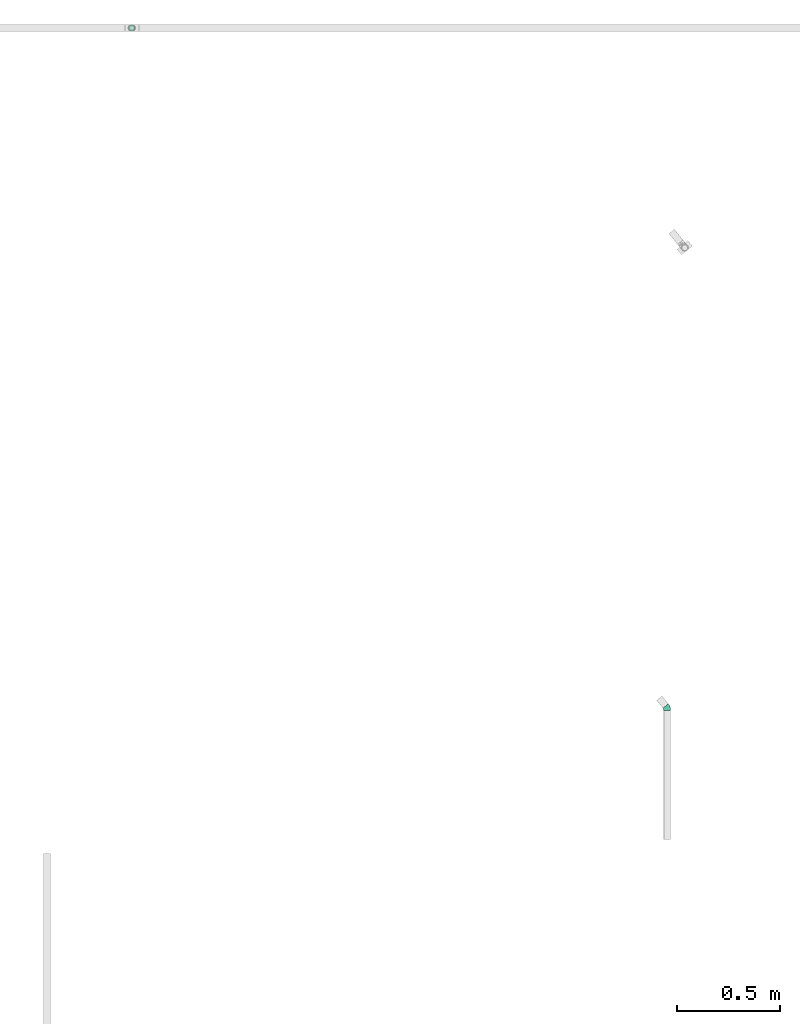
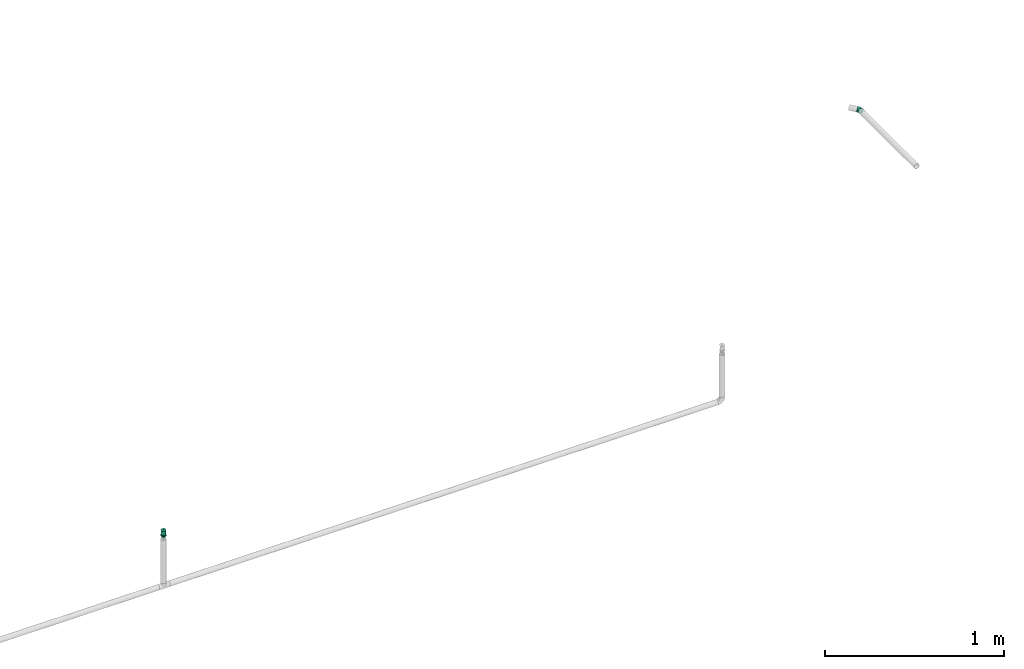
# One storey, part 52 of 63: 1 flow fitting, 1 flow terminal.
"""IFC2X3 building model written with IfcOpenShell, lengths in millimetres."""

from ifc_helpers import new_model, entity, si_unit, converted_unit, derived_unit, direction, frame, origin_with_axes, place, context, subcontext, project, spatial, open_shell, surface_model, source, transform, mapped, type_object, element, save


model = new_model("IFC2X3")

# Units and contexts
model_context = context("Model", 3, precision=0.01, world=frame((0.0, 4.29681676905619e-09, 0.0)), true_north=direction((4.01073788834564e-13, 1.0)))
plan_context = context("Plan", 3, precision=0.01, world=frame((0.0, 4.29681676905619e-09, 0.0)), true_north=direction((4.01073788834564e-13, 1.0)))
body_context = subcontext(model_context, "Body", "Model", "MODEL_VIEW")
ifc_project = project(units=[converted_unit("PLANEANGLEUNIT", "DEGREE", entity("IfcPositiveLengthMeasure", 0.0174532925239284), si_unit("PLANEANGLEUNIT", "RADIAN"), dimensions=[0, 0, 0, 0, 0, 0, 0]), si_unit("AREAUNIT", "SQUARE_METRE"), si_unit("LENGTHUNIT", "METRE", prefix="MILLI"), si_unit("MASSUNIT", "GRAM", prefix="KILO"), si_unit("POWERUNIT", "WATT"), si_unit("PRESSUREUNIT", "PASCAL", prefix="KILO"), si_unit("FORCEUNIT", "NEWTON", prefix="KILO"), si_unit("ELECTRICVOLTAGEUNIT", "VOLT"), si_unit("ELECTRICCURRENTUNIT", "AMPERE"), si_unit("THERMODYNAMICTEMPERATUREUNIT", "DEGREE_CELSIUS"), si_unit("TIMEUNIT", "SECOND"), si_unit("VOLUMEUNIT", "CUBIC_METRE"), derived_unit("LINEARVELOCITYUNIT", [(si_unit("LENGTHUNIT", "METRE"), 1), (si_unit("TIMEUNIT", "SECOND"), -1)]), derived_unit("VOLUMETRICFLOWRATEUNIT", [(si_unit("VOLUMEUNIT", "CUBIC_METRE"), 1), (si_unit("TIMEUNIT", "SECOND"), -1)]), derived_unit("THERMALTRANSMITTANCEUNIT", [(si_unit("POWERUNIT", "WATT"), 1), (si_unit("THERMODYNAMICTEMPERATUREUNIT", "KELVIN"), -1), (si_unit("AREAUNIT", "SQUARE_METRE"), -1)]), derived_unit("SOUNDPRESSUREUNIT", [(si_unit("PRESSUREUNIT", "PASCAL"), 1)])], contexts=[model_context, plan_context])

# Site, building, storey
site_placement = place(None, frame((0.0, -4.29681676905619e-09, 0.0), z_axis=(0.0, 0.0, 1.0), x_axis=(1.0, 0.0, 0.0)))
site = spatial("IfcSite", under=ifc_project, at=site_placement, CompositionType="ELEMENT")
building_placement = place(site_placement, frame((0.0, 4.29681676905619e-09, 0.0), z_axis=(0.0, 0.0, 1.0), x_axis=(1.0, 0.0, 0.0)))
building = spatial("IfcBuilding", under=site, at=building_placement, Name="mc-building", CompositionType="ELEMENT")
storey_placement = place(building_placement, frame((0.0, 0.0, 207370.0), z_axis=(0.0, 0.0, 1.0), x_axis=(1.0, 0.0, 0.0)))
storey = spatial("IfcBuildingStorey", under=building, at=storey_placement, Name="Nivå E", CompositionType="ELEMENT", Elevation=207370.0)

# Flow fitting
pipe_fitting_type = type_object("IfcPipeFittingType", Name="magi_pipe_fe_elbow_short_001", PredefinedType="BEND")
shared_shape_1 = source(origin_with_axes(), body_context, "Body", "SurfaceModel", [
    surface_model("IfcShellBasedSurfaceModel", [(-11.96921, 4.37404, -16.32415), (-11.96921, 0.0, -16.9), (-11.96921, 11.9501, -11.9501), (-11.96921, 8.45, -14.63583), (-11.96921, 16.32415, -4.37404), (-11.96921, 14.63583, -8.45), (-11.96921, -14.63583, -8.45), (-11.96921, -16.32415, -4.37404), (-11.96921, -8.45, 14.63583), (-11.96921, -11.9501, -11.9501), (-11.96921, -8.45, -14.63583), (-11.96921, -4.37404, -16.32415), (-11.96921, -16.9, 0.0), (-11.96921, -16.32415, 4.37404), (-11.96921, 11.9501, 11.9501), (-11.96921, 16.32415, 4.37404), (-11.96921, 14.63583, 8.45), (-11.96921, 4.37404, 16.32415), (-11.96921, 8.45, 14.63583), (-11.96921, -14.63583, 8.45), (-11.96921, -11.9501, 11.9501), (-11.96921, -4.37404, 16.32415), (-11.96921, 0.0, 16.9), (-11.96921, 16.9, 0.0), (1.78138, 16.81944, -11.9501), (9.30182, 7.53247, -16.9), (6.54915, 10.93174, -16.32415), (3.98406, 14.09935, -14.63583), (0.0912, 18.90664, -8.45), (-0.9713, 20.21871, -4.37404), (19.57494, -5.15378, -4.37404), (14.61958, 0.96558, 14.63583), (14.61958, 0.96558, -14.63583), (16.82227, -1.75451, -11.9501), (12.0545, 4.1332, -16.32415), (18.51245, -3.84171, -8.45), (16.82227, -1.75451, 11.9501), (19.93734, -5.6013, 0.0), (-1.33369, 20.66623, 0.0), (-0.9713, 20.21871, 4.37404), (1.78138, 16.81944, 11.9501), (0.0912, 18.90664, 8.45), (3.98406, 14.09935, 14.63583), (6.54915, 10.93174, 16.32415), (9.30182, 7.53247, 16.9), (19.57494, -5.15378, 4.37404), (18.51245, -3.84171, 8.45), (12.0545, 4.1332, 16.32415), (-4.59731, -13.05133, 9.99471), (1.68658, -4.76274, 15.33195), (-5.85866, -6.28919, 15.4925), (-2.48763, -9.63675, 13.11426), (11.78625, -7.2496, 9.99471), (-3.55203, -1.6588, 16.69187), (-3.5072, -15.44596, 0.0), (0.62477, -15.07642, 2.7613), (-5.81148, -16.25621, 2.98921), (-1.22483, 3.45883, 16.82289), (1.03738, 7.50197, 16.30051), (-1.95294, -14.77956, 5.9938), (3.94745, -11.14726, 9.63812), (8.51095, -1.20065, 15.4925), (-3.98868, 11.26369, 13.70221), (-4.77795, 14.43949, 10.61907), (13.28372, -9.8157, 3.17643), (10.8188, -10.25685, 5.9938), (7.34486, -12.74449, 3.20825), (4.58378, -12.94419, 6.02768), (-5.84732, 16.51233, 6.8254), (-6.20305, 17.51687, 3.53544), (-4.74345, 7.03435, 15.76992), (4.63826, 1.41552, 16.69965), (7.99786, -5.92365, 13.11426), (12.44607, -9.79661, 0.0), (-6.32787, 17.86936, 0.0), (4.9548, -13.99192, 0.0), (-0.30537, 10.22742, 15.14484), (-4.49542, -1.81888, -16.69965), (-4.14617, -15.98795, -3.17643), (-1.95294, -14.77956, -5.9938), (2.31234, -14.5266, -3.20825), (3.80436, 0.94623, -16.69187), (-5.52734, 5.17728, -16.30051), (-5.3739, 14.22845, -10.61907), (-3.98868, 11.26369, -13.70221), (4.58378, -12.94419, -6.02768), (9.00236, -12.10976, -2.7613), (10.8188, -10.25685, -5.9938), (-6.20305, 17.51687, -3.53544), (-5.84732, 16.51233, -6.8254), (7.99786, -5.92365, -13.11426), (-0.74051, 8.45187, -15.76992), (-6.19901, 8.14037, -15.14484), (1.68658, -4.76274, -15.33195), (-1.22483, 3.45883, -16.82289), (-4.59731, -13.05133, -9.99471), (-2.48763, -9.63675, -13.11426), (3.94745, -11.14726, -9.63812), (-5.85866, -6.28919, -15.4925), (8.51095, -1.20065, -15.4925), (14.74673, -8.97617, -2.98921), (11.78625, -7.2496, -9.99471)], [open_shell([[[0, 1, 2]], [[3, 0, 2]], [[4, 5, 2]], [[6, 2, 1]], [[2, 7, 8]], [[9, 6, 10]], [[1, 11, 10]], [[1, 10, 6]], [[6, 7, 2]], [[12, 13, 7]], [[4, 2, 14]], [[14, 15, 4]], [[16, 15, 14]], [[17, 18, 14]], [[2, 8, 14]], [[17, 14, 8]], [[19, 20, 13]], [[13, 20, 7]], [[21, 22, 8]], [[20, 8, 7]], [[8, 22, 17]], [[23, 4, 15]], [[24, 25, 26]], [[24, 26, 27]], [[24, 28, 29]], [[25, 24, 30]], [[31, 30, 24]], [[32, 30, 33]], [[30, 32, 34]], [[33, 30, 35]], [[34, 25, 30]], [[30, 36, 37]], [[38, 24, 29]], [[24, 39, 40]], [[40, 39, 41]], [[40, 42, 43]], [[40, 31, 24]], [[44, 40, 43]], [[45, 36, 46]], [[37, 36, 45]], [[31, 44, 47]], [[30, 31, 36]], [[40, 44, 31]], [[39, 24, 38]], [[19, 48, 20]], [[49, 50, 51]], [[8, 20, 51]], [[46, 36, 52]], [[22, 21, 53]], [[21, 8, 50]], [[54, 55, 56]], [[53, 57, 22]], [[22, 57, 17]], [[43, 58, 44]], [[48, 59, 60]], [[31, 47, 61]], [[62, 63, 14]], [[62, 14, 18]], [[64, 65, 66]], [[67, 59, 55]], [[42, 40, 62]], [[15, 68, 69]], [[19, 13, 59]], [[23, 15, 69]], [[15, 16, 68]], [[48, 51, 20]], [[70, 62, 18]], [[18, 17, 70]], [[12, 54, 56]], [[66, 67, 55]], [[71, 57, 53]], [[31, 72, 36]], [[14, 63, 16]], [[71, 47, 44]], [[41, 39, 68]], [[65, 46, 52]], [[58, 70, 57]], [[72, 31, 61]], [[63, 68, 16]], [[73, 64, 66]], [[57, 71, 44]], [[17, 57, 70]], [[69, 68, 39]], [[74, 69, 38]], [[60, 72, 51]], [[49, 51, 72]], [[75, 55, 54]], [[58, 43, 76]], [[49, 61, 71]], [[41, 63, 40]], [[68, 63, 41]], [[40, 63, 62]], [[76, 70, 58]], [[50, 53, 21]], [[45, 64, 37]], [[45, 46, 65]], [[49, 71, 53]], [[60, 52, 72]], [[59, 48, 19]], [[51, 48, 60]], [[72, 52, 36]], [[65, 52, 60]], [[51, 50, 8]], [[53, 50, 49]], [[71, 61, 47]], [[72, 61, 49]], [[66, 55, 75]], [[56, 59, 13]], [[73, 66, 75]], [[66, 65, 67]], [[37, 64, 73]], [[45, 65, 64]], [[65, 60, 67]], [[60, 59, 67]], [[59, 56, 55]], [[12, 56, 13]], [[38, 69, 39]], [[23, 69, 74]], [[44, 58, 57]], [[76, 43, 42]], [[42, 62, 76]], [[62, 70, 76]], [[11, 1, 77]], [[78, 79, 80]], [[25, 34, 81]], [[0, 82, 1]], [[83, 84, 2]], [[80, 85, 86]], [[5, 83, 2]], [[35, 30, 87]], [[4, 88, 89]], [[32, 33, 90]], [[27, 26, 91]], [[82, 0, 92]], [[54, 78, 80]], [[93, 77, 81]], [[94, 77, 1]], [[95, 79, 6]], [[10, 96, 9]], [[97, 95, 96]], [[7, 6, 79]], [[9, 95, 6]], [[98, 10, 11]], [[97, 96, 90]], [[75, 86, 73]], [[99, 81, 34]], [[23, 74, 88]], [[83, 89, 28]], [[38, 29, 88]], [[89, 83, 5]], [[73, 86, 100]], [[89, 5, 4]], [[83, 24, 84]], [[98, 96, 10]], [[91, 84, 27]], [[94, 81, 77]], [[92, 91, 82]], [[2, 84, 3]], [[85, 87, 86]], [[25, 94, 26]], [[99, 34, 32]], [[24, 27, 84]], [[101, 90, 33]], [[90, 93, 99]], [[87, 97, 101]], [[93, 98, 77]], [[37, 73, 100]], [[24, 83, 28]], [[26, 94, 91]], [[101, 33, 35]], [[93, 90, 96]], [[94, 25, 81]], [[82, 91, 94]], [[88, 29, 89]], [[29, 28, 89]], [[7, 78, 12]], [[96, 95, 9]], [[79, 95, 97]], [[87, 101, 35]], [[90, 101, 97]], [[77, 98, 11]], [[96, 98, 93]], [[90, 99, 32]], [[81, 99, 93]], [[80, 86, 75]], [[100, 87, 30]], [[54, 80, 75]], [[80, 79, 85]], [[12, 78, 54]], [[7, 79, 78]], [[79, 97, 85]], [[97, 87, 85]], [[87, 100, 86]], [[37, 100, 30]], [[23, 88, 4]], [[38, 88, 74]], [[1, 82, 94]], [[92, 0, 3]], [[3, 84, 92]], [[84, 91, 92]]])]),
])
flow_fitting_placement = place(storey_placement, frame((725000.0, 442870.08532, 7030.0), z_axis=(0.0, 0.0, 1.0), x_axis=(0.0, 1.0, 0.0)))
element("IfcFlowFitting", 1, at=flow_fitting_placement, inside=storey, type_object=pipe_fitting_type, Name="magi_pipe_fe_elbow_short_001", context=body_context, shape_type="MappedRepresentation", body=[
    mapped(shared_shape_1, transform((0.0, 0.0, 0.0), scale=1.0)),
])

# Flow terminal
fire_suppression_terminal_type = type_object("IfcFireSuppressionTerminalType", Name="68DGR-STD-STÅENDE", PredefinedType="NOTDEFINED")
shared_shape_2 = source(origin_with_axes(), body_context, "Body", "SurfaceModel", [
    surface_model("IfcShellBasedSurfaceModel", [(3.36465, -12.55704, 51.0), (6.5, -11.25833, 51.0), (9.19239, -9.19239, 51.0), (12.55704, -3.36465, 51.0), (-11.25833, -6.5, 51.0), (11.25833, -6.5, 51.0), (-13.0, 0.0, 51.0), (0.0, -13.0, 51.0), (-6.5, -11.25833, 51.0), (-3.36465, -12.55704, 51.0), (-9.19239, -9.19239, 51.0), (-12.55704, -3.36465, 51.0), (13.0, 0.0, 51.0), (12.55704, 3.36465, 51.0), (11.25833, 6.5, 51.0), (9.19239, 9.19239, 51.0), (6.5, 11.25833, 51.0), (3.36465, 12.55704, 51.0), (0.0, 13.0, 51.0), (-3.36465, 12.55704, 51.0), (-12.55704, 3.36465, 51.0), (-9.19239, 9.19239, 51.0), (-11.25833, 6.5, 51.0), (-6.5, 11.25833, 51.0), (0.0, 13.0, 21.14766), (3.36465, 12.55704, 21.14766), (6.5, 11.25833, 21.14766), (-3.36465, 12.55704, 21.14766), (9.19239, 9.19239, 21.14766), (11.25833, 6.5, 21.14766), (12.55704, 3.36465, 21.14766), (-12.55704, 3.36465, 21.14766), (-11.25833, -6.5, 21.14766), (-9.19239, 9.19239, 21.14766), (-6.5, 11.25833, 21.14766), (-11.25833, 6.5, 21.14766), (-13.0, 0.0, 21.14766), (12.55704, -3.36465, 21.14766), (9.19239, -9.19239, 21.14766), (11.25833, -6.5, 21.14766), (6.5, -11.25833, 21.14766), (3.36465, -12.55704, 21.14766), (-6.5, -11.25833, 21.14766), (-9.19239, -9.19239, 21.14766), (-12.55704, -3.36465, 21.14766), (0.0, -13.0, 21.14766), (-3.36465, -12.55704, 21.14766), (13.0, 0.0, 21.14766), (7.24444, -1.94114, 0.1), (1.94114, -7.24444, 0.1), (3.75, -6.49519, 0.1), (5.3033, -5.3033, 0.1), (-5.3033, -5.3033, 0.1), (6.49519, -3.75, 0.1), (5.3033, 5.3033, 0.1), (0.0, -7.5, 0.1), (-3.75, -6.49519, 0.1), (-1.94114, -7.24444, 0.1), (-7.24444, -1.94114, 0.1), (-6.49519, -3.75, 0.1), (-7.24444, 1.94114, 0.1), (7.5, 0.0, 0.1), (6.49519, 3.75, 0.1), (-6.49519, 3.75, 0.1), (1.94114, 7.24444, 0.1), (0.0, 7.5, 0.1), (3.75, 6.49519, 0.1), (-7.5, 0.0, 0.1), (-5.3033, 5.3033, 0.1), (-1.94114, 7.24444, 0.1), (-3.75, 6.49519, 0.1), (7.24444, 1.94114, 0.1), (1.94114, 7.24444, -0.1), (-6.49519, 3.75, -0.1), (0.0, 7.5, -0.1), (5.3033, 5.3033, -0.1), (3.75, 6.49519, -0.1), (6.49519, 3.75, -0.1), (7.24444, 1.94114, -0.1), (-1.94114, 7.24444, -0.1), (-5.3033, 5.3033, -0.1), (-3.75, 6.49519, -0.1), (-7.24444, 1.94114, -0.1), (-7.24444, -1.94114, -0.1), (-7.5, 0.0, -0.1), (7.5, 0.0, -0.1), (7.24444, -1.94114, -0.1), (-5.3033, -5.3033, -0.1), (1.94114, -7.24444, -0.1), (6.49519, -3.75, -0.1), (5.3033, -5.3033, -0.1), (3.75, -6.49519, -0.1), (-6.49519, -3.75, -0.1), (-3.75, -6.49519, -0.1), (0.0, -7.5, -0.1), (-1.94114, -7.24444, -0.1), (0.0, -2.5, 51.0), (-2.5, 0.0, 51.0), (0.0, 2.5, 51.0), (2.5, 0.0, 51.0), (0.0, -16.0, 53.0), (11.31371, -11.31371, 53.0), (-11.31371, -11.31371, 53.0), (-16.0, 0.0, 53.0), (16.0, 0.0, 53.0), (11.31371, 11.31371, 53.0), (0.0, 16.0, 53.0), (-11.31371, 11.31371, 53.0), (1.25, -2.16506, 57.0), (0.0, -2.5, 57.0), (0.64705, -2.41481, 57.0), (2.41481, -0.64705, 57.0), (1.76777, -1.76777, 57.0), (-2.41481, -0.64705, 57.0), (-2.5, 0.0, 57.0), (2.16506, -1.25, 57.0), (-1.25, -2.16506, 57.0), (-0.64705, -2.41481, 57.0), (-1.76777, -1.76777, 57.0), (-2.16506, -1.25, 57.0), (2.5, 0.0, 57.0), (2.41481, 0.64705, 57.0), (2.16506, 1.25, 57.0), (1.76777, 1.76777, 57.0), (0.64705, 2.41481, 57.0), (1.25, 2.16506, 57.0), (-1.76777, 1.76777, 57.0), (0.0, 2.5, 57.0), (-2.16506, 1.25, 57.0), (-2.41481, 0.64705, 57.0), (-0.64705, 2.41481, 57.0), (-1.25, 2.16506, 57.0), (1.25, 2.16506, 51.0), (1.76777, 1.76777, 51.0), (1.15, 1.99186, 51.0), (0.59528, 2.22163, 51.0), (0.64705, 2.41481, 51.0), (0.0, 2.3, 51.0), (1.62635, 1.62635, 51.0), (2.41481, 0.64705, 51.0), (2.3, 0.0, 51.0), (2.22163, 0.59528, 51.0), (2.16506, 1.25, 51.0), (1.99186, 1.15, 51.0), (-0.59528, 2.22163, 51.0), (-0.64705, 2.41481, 51.0), (-1.15, 1.99186, 51.0), (-1.76777, 1.76777, 51.0), (-1.25, 2.16506, 51.0), (-1.62635, 1.62635, 51.0), (-1.99186, 1.15, 51.0), (-2.16506, 1.25, 51.0), (-2.22163, 0.59528, 51.0), (-2.41481, 0.64705, 51.0), (-2.3, 0.0, 51.0), (2.41481, -0.64705, 51.0), (2.22163, -0.59528, 51.0), (1.99186, -1.15, 51.0), (2.16506, -1.25, 51.0), (1.62635, -1.62635, 51.0), (1.76777, -1.76777, 51.0), (1.25, -2.16506, 51.0), (1.15, -1.99186, 51.0), (0.59528, -2.22163, 51.0), (0.64705, -2.41481, 51.0), (0.0, -2.3, 51.0), (-2.16506, -1.25, 51.0), (-1.99186, -1.15, 51.0), (-1.76777, -1.76777, 51.0), (-1.62635, -1.62635, 51.0), (-2.41481, -0.64705, 51.0), (-2.22163, -0.59528, 51.0), (-0.59528, -2.22163, 51.0), (-0.64705, -2.41481, 51.0), (-1.15, -1.99186, 51.0), (-1.25, -2.16506, 51.0), (1.62635, -1.62635, 56.8), (1.15, -1.99186, 56.8), (0.59528, -2.22163, 56.8), (0.0, -2.3, 56.8), (2.22163, 0.59528, 56.8), (1.99186, -1.15, 56.8), (2.22163, -0.59528, 56.8), (-0.59528, -2.22163, 56.8), (-1.15, -1.99186, 56.8), (-1.62635, -1.62635, 56.8), (-1.99186, -1.15, 56.8), (-2.22163, -0.59528, 56.8), (-1.99186, 1.15, 56.8), (2.3, 0.0, 56.8), (1.62635, 1.62635, 56.8), (1.99186, 1.15, 56.8), (1.15, 1.99186, 56.8), (0.0, 2.3, 56.8), (0.59528, 2.22163, 56.8), (-2.22163, 0.59528, 56.8), (-2.3, 0.0, 56.8), (-1.15, 1.99186, 56.8), (-0.59528, 2.22163, 56.8), (-1.62635, 1.62635, 56.8), (4.1411, -15.45481, 19.0), (8.0, -13.85641, 19.0), (11.31371, -11.31371, 19.0), (-8.0, -13.85641, 19.0), (15.45481, -4.1411, 19.0), (16.0, 0.0, 19.0), (13.85641, -8.0, 19.0), (0.0, -16.0, 19.0), (-4.1411, -15.45481, 19.0), (-13.85641, -8.0, 19.0), (-11.31371, -11.31371, 19.0), (-15.45481, -4.1411, 19.0), (15.45481, 4.1411, 19.0), (13.85641, 8.0, 19.0), (11.31371, 11.31371, 19.0), (-4.1411, 15.45481, 19.0), (8.0, 13.85641, 19.0), (4.1411, 15.45481, 19.0), (0.0, 16.0, 19.0), (-13.85641, 8.0, 19.0), (-15.45481, 4.1411, 19.0), (-16.0, 0.0, 19.0), (-11.31371, 11.31371, 19.0), (-8.0, 13.85641, 19.0), (0.0, 16.0, 13.0), (4.1411, 15.45481, 13.0), (8.0, 13.85641, 13.0), (-4.1411, 15.45481, 13.0), (11.31371, 11.31371, 13.0), (13.85641, 8.0, 13.0), (15.45481, 4.1411, 13.0), (-15.45481, -4.1411, 13.0), (-11.31371, 11.31371, 13.0), (-8.0, 13.85641, 13.0), (-13.85641, 8.0, 13.0), (-15.45481, 4.1411, 13.0), (-16.0, 0.0, 13.0), (4.1411, -15.45481, 13.0), (16.0, 0.0, 13.0), (15.45481, -4.1411, 13.0), (13.85641, -8.0, 13.0), (11.31371, -11.31371, 13.0), (8.0, -13.85641, 13.0), (-8.0, -13.85641, 13.0), (-13.85641, -8.0, 13.0), (-11.31371, -11.31371, 13.0), (0.0, -16.0, 13.0), (-4.1411, -15.45481, 13.0), (7.24444, -1.94114, 13.0), (1.94114, -7.24444, 13.0), (3.75, -6.49519, 13.0), (5.3033, -5.3033, 13.0), (-5.3033, -5.3033, 13.0), (6.49519, -3.75, 13.0), (5.3033, 5.3033, 13.0), (0.0, -7.5, 13.0), (-3.75, -6.49519, 13.0), (-1.94114, -7.24444, 13.0), (-7.24444, -1.94114, 13.0), (-6.49519, -3.75, 13.0), (-7.24444, 1.94114, 13.0), (7.5, 0.0, 13.0), (6.49519, 3.75, 13.0), (-6.49519, 3.75, 13.0), (1.94114, 7.24444, 13.0), (0.0, 7.5, 13.0), (3.75, 6.49519, 13.0), (-7.5, 0.0, 13.0), (-5.3033, 5.3033, 13.0), (-1.94114, 7.24444, 13.0), (-3.75, 6.49519, 13.0), (7.24444, 1.94114, 13.0), (3.75, 6.49519, 0.0), (5.3033, 5.3033, 0.0), (3.65, 6.32199, 0.0), (1.88938, 7.05126, 0.0), (0.0, 7.3, 0.0), (1.94114, 7.24444, 0.0), (0.0, 7.5, 0.0), (5.16188, 5.16188, 0.0), (7.24444, 1.94114, 0.0), (7.3, 0.0, 0.0), (7.05126, 1.88938, 0.0), (7.5, 0.0, 0.0), (6.49519, 3.75, 0.0), (6.32199, 3.65, 0.0), (-1.88938, 7.05126, 0.0), (-1.94114, 7.24444, 0.0), (-3.65, 6.32199, 0.0), (-5.3033, 5.3033, 0.0), (-3.75, 6.49519, 0.0), (-5.16188, 5.16188, 0.0), (-6.32199, 3.65, 0.0), (-6.49519, 3.75, 0.0), (-7.05126, 1.88938, 0.0), (-7.24444, 1.94114, 0.0), (-7.3, 0.0, 0.0), (-7.5, 0.0, 0.0), (7.24444, -1.94114, 0.0), (7.05126, -1.88938, 0.0), (6.32199, -3.65, 0.0), (6.49519, -3.75, 0.0), (5.16188, -5.16188, 0.0), (5.3033, -5.3033, 0.0), (3.75, -6.49519, 0.0), (3.65, -6.32199, 0.0), (1.88938, -7.05126, 0.0), (1.94114, -7.24444, 0.0), (0.0, -7.3, 0.0), (0.0, -7.5, 0.0), (-6.49519, -3.75, 0.0), (-6.32199, -3.65, 0.0), (-5.3033, -5.3033, 0.0), (-5.16188, -5.16188, 0.0), (-7.24444, -1.94114, 0.0), (-7.05126, -1.88938, 0.0), (-1.88938, -7.05126, 0.0), (-1.94114, -7.24444, 0.0), (-3.65, -6.32199, 0.0), (-3.75, -6.49519, 0.0), (1.88938, -7.05126, 12.8), (0.0, -7.3, 12.8), (3.65, -6.32199, 12.8), (5.16188, -5.16188, 12.8), (6.32199, -3.65, 12.8), (7.05126, 1.88938, 12.8), (7.05126, -1.88938, 12.8), (-5.16188, -5.16188, 12.8), (-1.88938, -7.05126, 12.8), (-3.65, -6.32199, 12.8), (-6.32199, -3.65, 12.8), (-7.05126, -1.88938, 12.8), (0.0, 7.3, 12.8), (7.3, 0.0, 12.8), (6.32199, 3.65, 12.8), (5.16188, 5.16188, 12.8), (3.65, 6.32199, 12.8), (1.88938, 7.05126, 12.8), (-6.32199, 3.65, 12.8), (-7.05126, 1.88938, 12.8), (-7.3, 0.0, 12.8), (-3.65, 6.32199, 12.8), (-1.88938, 7.05126, 12.8), (-5.16188, 5.16188, 12.8)], [open_shell([[[0, 1, 2]], [[0, 2, 3]], [[0, 3, 4]], [[3, 2, 5]], [[6, 4, 3]], [[7, 8, 9]], [[7, 0, 8]], [[8, 4, 10]], [[0, 4, 8]], [[4, 6, 11]], [[6, 3, 12]], [[13, 14, 15]], [[6, 13, 15]], [[16, 17, 18]], [[15, 16, 19]], [[18, 19, 16]], [[20, 21, 22]], [[20, 6, 15]], [[21, 19, 23]], [[19, 21, 20]], [[15, 19, 20]], [[13, 6, 12]], [[24, 25, 26]], [[27, 24, 26]], [[28, 29, 30]], [[26, 28, 31]], [[28, 32, 31]], [[27, 33, 34]], [[33, 27, 31]], [[33, 31, 35]], [[27, 26, 31]], [[31, 32, 36]], [[32, 28, 30]], [[32, 30, 37]], [[38, 37, 39]], [[38, 40, 41]], [[38, 41, 37]], [[32, 37, 41]], [[32, 42, 43]], [[44, 36, 32]], [[42, 45, 46]], [[42, 32, 41]], [[45, 42, 41]], [[30, 47, 37]], [[4, 32, 43]], [[8, 42, 46]], [[43, 42, 10]], [[9, 46, 45]], [[36, 11, 6]], [[11, 36, 44]], [[11, 44, 4]], [[44, 32, 4]], [[43, 10, 4]], [[8, 10, 42]], [[46, 9, 8]], [[45, 7, 9]], [[0, 41, 40]], [[38, 1, 40]], [[5, 39, 37]], [[38, 39, 2]], [[3, 37, 47]], [[41, 0, 7]], [[40, 1, 0]], [[38, 2, 1]], [[39, 5, 2]], [[3, 5, 37]], [[47, 12, 3]], [[41, 7, 45]], [[30, 13, 47]], [[29, 14, 30]], [[25, 24, 17]], [[15, 29, 28]], [[30, 14, 13]], [[13, 12, 47]], [[16, 26, 17]], [[16, 15, 28]], [[26, 25, 17]], [[15, 14, 29]], [[28, 26, 16]], [[24, 18, 17]], [[19, 27, 34]], [[33, 23, 34]], [[22, 35, 31]], [[33, 35, 21]], [[20, 31, 36]], [[27, 19, 18]], [[34, 23, 19]], [[33, 21, 23]], [[35, 22, 21]], [[20, 22, 31]], [[36, 6, 20]], [[27, 18, 24]], [[48, 49, 50]], [[48, 50, 51]], [[49, 48, 52]], [[48, 51, 53]], [[54, 52, 48]], [[55, 56, 57]], [[56, 55, 52]], [[52, 58, 59]], [[52, 55, 49]], [[52, 60, 58]], [[54, 48, 61]], [[62, 54, 61]], [[54, 63, 52]], [[64, 65, 54]], [[64, 54, 66]], [[63, 54, 65]], [[63, 60, 52]], [[67, 58, 60]], [[68, 69, 70]], [[69, 68, 63]], [[69, 63, 65]], [[71, 62, 61]], [[72, 73, 74]], [[75, 72, 76]], [[75, 77, 78]], [[72, 75, 73]], [[78, 73, 75]], [[79, 80, 81]], [[80, 79, 73]], [[74, 73, 79]], [[78, 82, 73]], [[82, 83, 84]], [[82, 78, 85]], [[86, 87, 85]], [[88, 86, 89]], [[90, 91, 88]], [[90, 88, 89]], [[87, 86, 88]], [[83, 87, 92]], [[83, 85, 87]], [[93, 94, 95]], [[94, 93, 87]], [[88, 94, 87]], [[85, 83, 82]], [[83, 58, 84]], [[92, 59, 83]], [[56, 87, 93]], [[92, 87, 52]], [[57, 93, 95]], [[83, 59, 58]], [[58, 67, 84]], [[57, 56, 93]], [[52, 87, 56]], [[52, 59, 92]], [[55, 57, 95]], [[95, 94, 55]], [[88, 49, 94]], [[91, 50, 88]], [[53, 90, 89]], [[91, 90, 51]], [[48, 89, 86]], [[91, 51, 50]], [[50, 49, 88]], [[61, 48, 86]], [[53, 89, 48]], [[53, 51, 90]], [[85, 61, 86]], [[94, 49, 55]], [[78, 71, 85]], [[77, 62, 78]], [[66, 75, 76]], [[77, 75, 54]], [[64, 76, 72]], [[78, 62, 71]], [[71, 61, 85]], [[64, 66, 76]], [[54, 75, 66]], [[54, 62, 77]], [[65, 64, 72]], [[72, 74, 65]], [[79, 69, 74]], [[81, 70, 79]], [[63, 80, 73]], [[81, 80, 68]], [[60, 73, 82]], [[81, 68, 70]], [[70, 69, 79]], [[67, 60, 82]], [[63, 73, 60]], [[63, 68, 80]], [[84, 67, 82]], [[74, 69, 65]], [[96, 97, 98]], [[98, 99, 96]], [[100, 101, 102]], [[103, 102, 101]], [[101, 104, 103]], [[104, 105, 106]], [[107, 103, 106]], [[106, 103, 104]], [[99, 98, 105]], [[105, 104, 99]], [[98, 106, 105]], [[98, 107, 106]], [[107, 98, 97]], [[103, 107, 97]], [[97, 96, 102]], [[102, 103, 97]], [[96, 100, 102]], [[96, 101, 100]], [[101, 96, 99]], [[104, 101, 99]], [[108, 109, 110]], [[111, 108, 112]], [[113, 108, 114]], [[111, 112, 115]], [[108, 111, 114]], [[109, 116, 117]], [[116, 109, 118]], [[118, 113, 119]], [[118, 109, 108]], [[108, 113, 118]], [[111, 120, 114]], [[121, 122, 123]], [[114, 121, 123]], [[114, 123, 124]], [[124, 123, 125]], [[126, 124, 127]], [[124, 128, 129]], [[129, 114, 124]], [[126, 130, 131]], [[128, 124, 126]], [[130, 126, 127]], [[121, 114, 120]], [[132, 133, 134]], [[132, 134, 135]], [[136, 135, 137]], [[135, 136, 132]], [[136, 137, 98]], [[134, 133, 138]], [[139, 140, 141]], [[140, 139, 99]], [[139, 141, 142]], [[138, 142, 143]], [[142, 138, 133]], [[143, 142, 141]], [[98, 144, 145]], [[98, 137, 144]], [[145, 144, 146]], [[147, 148, 149]], [[146, 148, 145]], [[149, 148, 146]], [[150, 151, 147]], [[151, 150, 152]], [[150, 147, 149]], [[153, 152, 154]], [[152, 153, 151]], [[153, 154, 97]], [[99, 155, 156]], [[156, 155, 157]], [[157, 158, 159]], [[158, 157, 155]], [[159, 158, 160]], [[160, 161, 162]], [[162, 161, 163]], [[163, 164, 165]], [[164, 163, 161]], [[165, 164, 96]], [[162, 159, 160]], [[166, 167, 168]], [[168, 167, 169]], [[167, 166, 170]], [[97, 171, 170]], [[170, 171, 167]], [[97, 154, 171]], [[172, 96, 173]], [[172, 173, 174]], [[169, 175, 168]], [[175, 169, 174]], [[175, 174, 173]], [[165, 96, 172]], [[156, 140, 99]], [[170, 113, 97]], [[166, 119, 170]], [[116, 168, 175]], [[166, 168, 118]], [[117, 175, 173]], [[170, 119, 113]], [[113, 114, 97]], [[117, 116, 175]], [[118, 168, 116]], [[118, 119, 166]], [[109, 117, 173]], [[173, 96, 109]], [[164, 110, 96]], [[161, 108, 164]], [[115, 160, 158]], [[161, 160, 112]], [[111, 158, 155]], [[161, 112, 108]], [[108, 110, 164]], [[120, 111, 155]], [[115, 158, 111]], [[115, 112, 160]], [[99, 120, 155]], [[96, 110, 109]], [[139, 121, 99]], [[142, 122, 139]], [[125, 133, 132]], [[142, 133, 123]], [[124, 132, 136]], [[139, 122, 121]], [[121, 120, 99]], [[124, 125, 132]], [[123, 133, 125]], [[123, 122, 142]], [[127, 124, 136]], [[136, 98, 127]], [[145, 130, 98]], [[148, 131, 145]], [[128, 147, 151]], [[148, 147, 126]], [[129, 151, 153]], [[148, 126, 131]], [[131, 130, 145]], [[114, 129, 153]], [[128, 151, 129]], [[128, 126, 147]], [[97, 114, 153]], [[98, 130, 127]], [[176, 177, 178]], [[176, 178, 179]], [[180, 176, 179]], [[181, 176, 182]], [[180, 182, 176]], [[183, 184, 179]], [[185, 179, 184]], [[186, 187, 185]], [[185, 187, 188]], [[179, 185, 188]], [[189, 182, 180]], [[190, 191, 180]], [[192, 190, 180]], [[193, 194, 192]], [[180, 193, 192]], [[188, 193, 180]], [[195, 188, 196]], [[196, 188, 187]], [[197, 198, 199]], [[188, 199, 198]], [[188, 198, 193]], [[180, 179, 188]], [[154, 187, 171]], [[171, 186, 167]], [[174, 169, 184]], [[185, 169, 167]], [[172, 174, 183]], [[187, 186, 171]], [[154, 196, 187]], [[174, 184, 183]], [[184, 169, 185]], [[167, 186, 185]], [[172, 183, 179]], [[179, 165, 172]], [[165, 178, 163]], [[163, 177, 162]], [[157, 159, 181]], [[176, 159, 162]], [[156, 157, 182]], [[177, 176, 162]], [[163, 178, 177]], [[156, 182, 189]], [[182, 157, 181]], [[159, 176, 181]], [[156, 189, 140]], [[179, 178, 165]], [[140, 180, 141]], [[141, 191, 143]], [[134, 138, 192]], [[190, 138, 143]], [[135, 134, 194]], [[180, 191, 141]], [[140, 189, 180]], [[134, 192, 194]], [[192, 138, 190]], [[143, 191, 190]], [[135, 194, 193]], [[193, 137, 135]], [[137, 198, 144]], [[144, 197, 146]], [[150, 149, 188]], [[199, 149, 146]], [[152, 150, 195]], [[197, 199, 146]], [[144, 198, 197]], [[152, 195, 196]], [[195, 150, 188]], [[149, 199, 188]], [[152, 196, 154]], [[193, 198, 137]], [[200, 201, 202]], [[203, 200, 202]], [[204, 205, 202]], [[204, 202, 206]], [[203, 202, 205]], [[207, 203, 208]], [[207, 200, 203]], [[203, 209, 210]], [[209, 203, 211]], [[205, 211, 203]], [[205, 212, 211]], [[212, 213, 214]], [[215, 212, 214]], [[216, 217, 218]], [[214, 216, 215]], [[218, 215, 216]], [[211, 219, 220]], [[221, 211, 220]], [[222, 215, 223]], [[215, 222, 219]], [[219, 211, 215]], [[211, 212, 215]], [[224, 225, 226]], [[227, 224, 226]], [[228, 229, 230]], [[227, 226, 228]], [[227, 228, 231]], [[227, 232, 233]], [[232, 227, 234]], [[234, 231, 235]], [[231, 234, 227]], [[235, 231, 236]], [[228, 230, 231]], [[237, 238, 239]], [[237, 239, 240]], [[241, 242, 237]], [[241, 237, 240]], [[238, 237, 243]], [[244, 243, 245]], [[243, 244, 231]], [[243, 246, 247]], [[243, 231, 238]], [[237, 246, 243]], [[238, 231, 230]], [[231, 211, 236]], [[244, 209, 231]], [[203, 245, 243]], [[244, 245, 210]], [[208, 243, 247]], [[231, 209, 211]], [[211, 221, 236]], [[208, 203, 243]], [[210, 245, 203]], [[210, 209, 244]], [[207, 208, 247]], [[247, 246, 207]], [[237, 200, 246]], [[242, 201, 237]], [[206, 241, 240]], [[242, 241, 202]], [[204, 240, 239]], [[242, 202, 201]], [[201, 200, 237]], [[205, 204, 239]], [[206, 240, 204]], [[206, 202, 241]], [[238, 205, 239]], [[246, 200, 207]], [[230, 212, 238]], [[229, 213, 230]], [[216, 228, 226]], [[229, 228, 214]], [[217, 226, 225]], [[230, 213, 212]], [[212, 205, 238]], [[217, 216, 226]], [[214, 228, 216]], [[214, 213, 229]], [[218, 217, 225]], [[225, 224, 218]], [[227, 215, 224]], [[233, 223, 227]], [[219, 232, 234]], [[233, 232, 222]], [[220, 234, 235]], [[233, 222, 223]], [[223, 215, 227]], [[221, 220, 235]], [[219, 234, 220]], [[219, 222, 232]], [[236, 221, 235]], [[224, 215, 218]], [[248, 249, 250]], [[248, 250, 251]], [[249, 248, 252]], [[248, 251, 253]], [[254, 252, 248]], [[255, 256, 257]], [[256, 255, 252]], [[252, 258, 259]], [[252, 255, 249]], [[252, 260, 258]], [[254, 248, 261]], [[262, 254, 261]], [[254, 263, 252]], [[264, 265, 254]], [[264, 254, 266]], [[263, 254, 265]], [[263, 260, 252]], [[267, 258, 260]], [[268, 269, 270]], [[269, 268, 263]], [[269, 263, 265]], [[271, 262, 261]], [[272, 273, 274]], [[272, 274, 275]], [[276, 277, 275]], [[277, 276, 278]], [[275, 277, 272]], [[274, 273, 279]], [[280, 281, 282]], [[281, 280, 283]], [[280, 282, 284]], [[279, 284, 285]], [[284, 279, 273]], [[285, 284, 282]], [[278, 286, 287]], [[287, 286, 288]], [[289, 290, 291]], [[288, 290, 287]], [[288, 291, 290]], [[278, 276, 286]], [[292, 293, 289]], [[293, 292, 294]], [[292, 289, 291]], [[295, 294, 296]], [[294, 295, 293]], [[295, 296, 297]], [[283, 298, 299]], [[299, 298, 300]], [[300, 301, 302]], [[301, 300, 298]], [[302, 301, 303]], [[303, 304, 305]], [[305, 304, 306]], [[306, 307, 308]], [[307, 306, 304]], [[308, 307, 309]], [[305, 302, 303]], [[310, 311, 312]], [[312, 311, 313]], [[311, 310, 314]], [[297, 315, 314]], [[314, 315, 311]], [[297, 296, 315]], [[316, 309, 317]], [[316, 317, 318]], [[313, 319, 312]], [[313, 318, 319]], [[319, 318, 317]], [[308, 309, 316]], [[299, 281, 283]], [[314, 258, 297]], [[310, 259, 314]], [[256, 312, 319]], [[310, 312, 252]], [[257, 319, 317]], [[314, 259, 258]], [[258, 267, 297]], [[257, 256, 319]], [[252, 312, 256]], [[252, 259, 310]], [[255, 257, 317]], [[317, 309, 255]], [[307, 249, 309]], [[304, 250, 307]], [[253, 303, 301]], [[304, 303, 251]], [[248, 301, 298]], [[304, 251, 250]], [[250, 249, 307]], [[261, 248, 298]], [[253, 301, 248]], [[253, 251, 303]], [[283, 261, 298]], [[309, 249, 255]], [[280, 271, 283]], [[284, 262, 280]], [[266, 273, 272]], [[284, 273, 254]], [[264, 272, 277]], [[280, 262, 271]], [[271, 261, 283]], [[264, 266, 272]], [[254, 273, 266]], [[254, 262, 284]], [[265, 264, 277]], [[277, 278, 265]], [[287, 269, 278]], [[290, 270, 287]], [[263, 289, 293]], [[290, 289, 268]], [[260, 293, 295]], [[290, 268, 270]], [[270, 269, 287]], [[267, 260, 295]], [[263, 293, 260]], [[263, 268, 289]], [[297, 267, 295]], [[278, 269, 265]], [[320, 321, 322]], [[323, 322, 324]], [[325, 326, 322]], [[324, 322, 326]], [[322, 327, 325]], [[328, 329, 321]], [[327, 321, 329]], [[330, 331, 327]], [[322, 321, 327]], [[331, 332, 327]], [[326, 325, 333]], [[334, 325, 332]], [[335, 334, 336]], [[332, 337, 336]], [[334, 332, 336]], [[331, 338, 332]], [[339, 338, 340]], [[340, 338, 331]], [[341, 342, 343]], [[332, 338, 343]], [[332, 343, 342]], [[332, 325, 327]], [[296, 331, 315]], [[315, 330, 311]], [[318, 313, 329]], [[327, 313, 311]], [[316, 318, 328]], [[331, 330, 315]], [[296, 340, 331]], [[318, 329, 328]], [[329, 313, 327]], [[311, 330, 327]], [[316, 328, 321]], [[321, 308, 316]], [[308, 320, 306]], [[306, 322, 305]], [[300, 302, 324]], [[323, 302, 305]], [[299, 300, 326]], [[322, 323, 305]], [[306, 320, 322]], [[299, 326, 333]], [[326, 300, 324]], [[302, 323, 324]], [[299, 333, 281]], [[321, 320, 308]], [[281, 325, 282]], [[282, 334, 285]], [[274, 279, 336]], [[335, 279, 285]], [[275, 274, 337]], [[325, 334, 282]], [[281, 333, 325]], [[274, 336, 337]], [[336, 279, 335]], [[285, 334, 335]], [[275, 337, 332]], [[332, 276, 275]], [[276, 342, 286]], [[286, 341, 288]], [[292, 291, 338]], [[343, 291, 288]], [[294, 292, 339]], [[341, 343, 288]], [[286, 342, 341]], [[294, 339, 340]], [[339, 292, 338]], [[291, 343, 338]], [[294, 340, 296]], [[332, 342, 276]]])]),
])
flow_terminal_placement = place(storey_placement, frame((722410.29865, 446158.4735, 3027.71994000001), z_axis=(0.0, 0.0, 1.0), x_axis=(1.0, 0.0, 0.0)))
element("IfcFlowTerminal", 2, at=flow_terminal_placement, inside=storey, type_object=fire_suppression_terminal_type, Name="68DGR-STD-STÅENDE", context=body_context, shape_type="MappedRepresentation", body=[
    mapped(shared_shape_2, transform((0.0, 0.0, 0.0), scale=1.0)),
])

save(model, "model.ifc")
